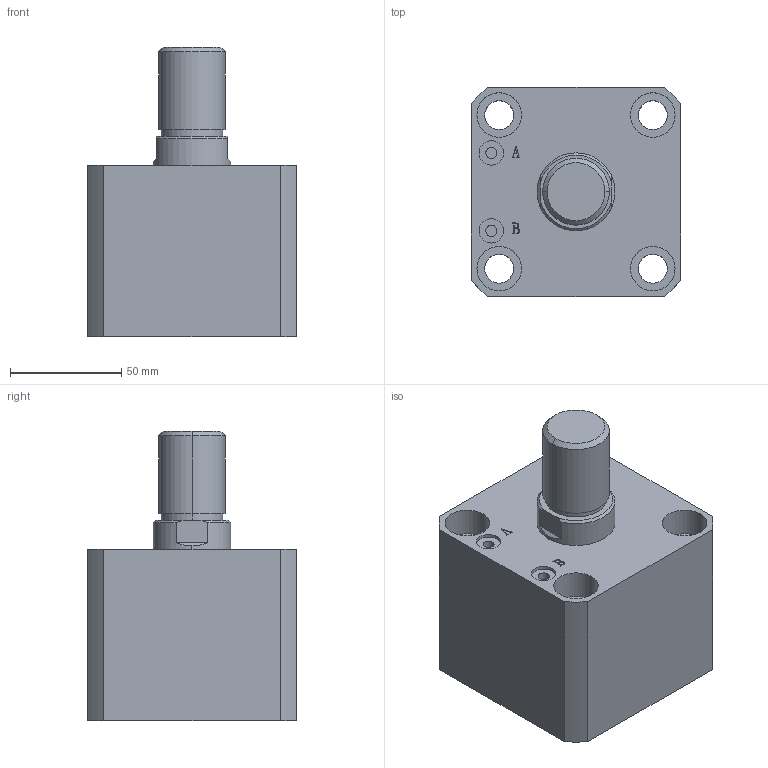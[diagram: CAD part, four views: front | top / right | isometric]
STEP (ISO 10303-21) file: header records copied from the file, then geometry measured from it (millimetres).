
FILE_DESCRIPTION (( 'STEP AP203' ), '1' );
FILE_NAME ('HTB-SDMA63-10W.STEP', '2019-10-08T01:01:24', ( '微软用户' ), ( '微软中国' ), 'SwSTEP 2.0', 'SolidWorks 2012', '' );
FILE_SCHEMA (( 'CONFIG_CONTROL_DESIGN' ));
Length unit declared in the file: millimetre
Products named in the file (3): HTB-SDMA63-10W; HTB-SDMA63-10W活塞杆; HTB-SDMA63-10掛极
Assembly tree (2 placements, depth 2):
  HTB-SDMA63-10W
    HTB-SDMA63-10掛极
    HTB-SDMA63-10W活塞杆
Bounding box: 94 x 94 x 130 mm (x, y, z)
Volume: 630113 mm3; surface area: 92644.3 mm2
Topology: 2 solids, 2 shells, 141 faces, 337 edges, 222 vertices
Faces by surface type: plane 67, cylinder 48, bspline 16, torus 6, cone 4
Entity records: 5176 total; most frequent: CARTESIAN_POINT 1593, ORIENTED_EDGE 674, DIRECTION 669, EDGE_CURVE 337, AXIS2_PLACEMENT_3D 242, VERTEX_POINT 222, LINE 185, VECTOR 185
